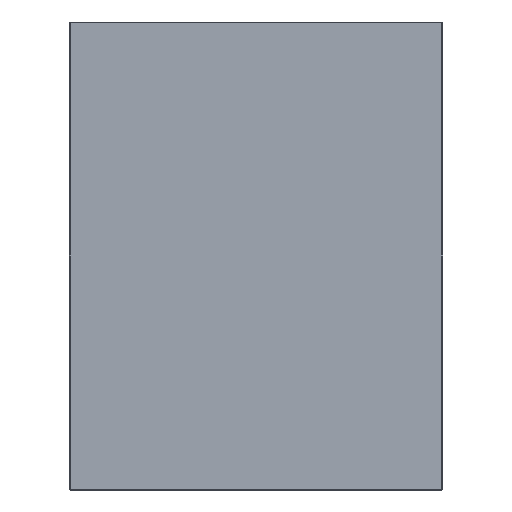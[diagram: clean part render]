
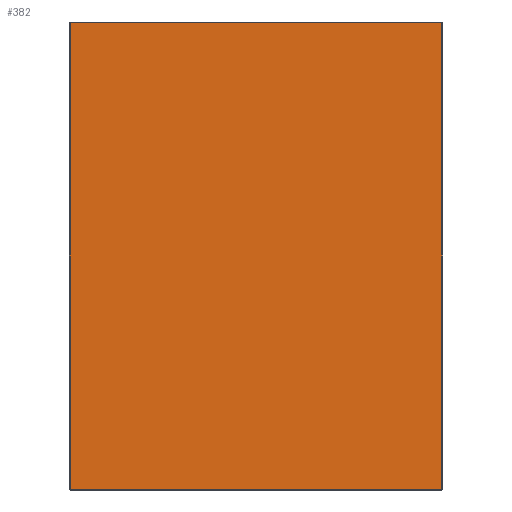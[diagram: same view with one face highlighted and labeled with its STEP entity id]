
A CAD part, front view. The second image highlights one B-rep face of the part: STEP entity #382.
In plain terms, the highlighted planar face has unit normal (0, -1, 0).
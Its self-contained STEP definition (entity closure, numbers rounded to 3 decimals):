
#12 = CARTESIAN_POINT ( 'NONE',  ( 197., 0., 247. ) ) ;
#33 = VECTOR ( 'NONE', #425, 1000. ) ;
#44 = CARTESIAN_POINT ( 'NONE',  ( 0., 0., -247. ) ) ;
#56 = EDGE_CURVE ( 'NONE', #268, #481, #639, .T. ) ;
#97 = CARTESIAN_POINT ( 'NONE',  ( -197., 0., 247. ) ) ;
#134 = ORIENTED_EDGE ( 'NONE', *, *, #584, .T. ) ;
#190 = DIRECTION ( 'NONE',  ( -1., 0., 0. ) ) ;
#195 = CARTESIAN_POINT ( 'NONE',  ( -197., 0., -247. ) ) ;
#200 = ORIENTED_EDGE ( 'NONE', *, *, #430, .T. ) ;
#201 = LINE ( 'NONE', #618, #291 ) ;
#210 = ORIENTED_EDGE ( 'NONE', *, *, #56, .T. ) ;
#268 = VERTEX_POINT ( 'NONE', #507 ) ;
#279 = VERTEX_POINT ( 'NONE', #97 ) ;
#291 = VECTOR ( 'NONE', #325, 1000. ) ;
#309 = LINE ( 'NONE', #44, #520 ) ;
#314 = PLANE ( 'NONE',  #499 ) ;
#318 = VECTOR ( 'NONE', #190, 1000. ) ;
#325 = DIRECTION ( 'NONE',  ( 0., 0., -1. ) ) ;
#328 = FACE_OUTER_BOUND ( 'NONE', #513, .T. ) ;
#341 = LINE ( 'NONE', #645, #318 ) ;
#382 = ADVANCED_FACE ( 'NONE', ( #328 ), #314, .F. ) ;
#389 = DIRECTION ( 'NONE',  ( 1., 0., 0. ) ) ;
#417 = DIRECTION ( 'NONE',  ( 0., 1., 0. ) ) ;
#422 = CARTESIAN_POINT ( 'NONE',  ( 0., 0., 0. ) ) ;
#425 = DIRECTION ( 'NONE',  ( 0., 0., 1. ) ) ;
#430 = EDGE_CURVE ( 'NONE', #481, #279, #341, .T. ) ;
#446 = ORIENTED_EDGE ( 'NONE', *, *, #586, .T. ) ;
#481 = VERTEX_POINT ( 'NONE', #12 ) ;
#499 = AXIS2_PLACEMENT_3D ( 'NONE', #422, #417, #542 ) ;
#507 = CARTESIAN_POINT ( 'NONE',  ( 197., 0., -247. ) ) ;
#513 = EDGE_LOOP ( 'NONE', ( #210, #200, #446, #134 ) ) ;
#520 = VECTOR ( 'NONE', #389, 1000. ) ;
#542 = DIRECTION ( 'NONE',  ( 0., 0., 1. ) ) ;
#584 = EDGE_CURVE ( 'NONE', #608, #268, #309, .T. ) ;
#586 = EDGE_CURVE ( 'NONE', #279, #608, #201, .T. ) ;
#587 = CARTESIAN_POINT ( 'NONE',  ( 197., 0., 0. ) ) ;
#608 = VERTEX_POINT ( 'NONE', #195 ) ;
#618 = CARTESIAN_POINT ( 'NONE',  ( -197., 0., 0. ) ) ;
#639 = LINE ( 'NONE', #587, #33 ) ;
#645 = CARTESIAN_POINT ( 'NONE',  ( 0., 0., 247. ) ) ;
